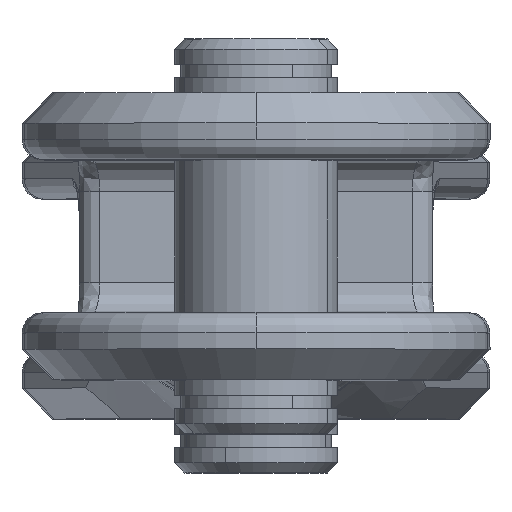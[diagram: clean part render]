
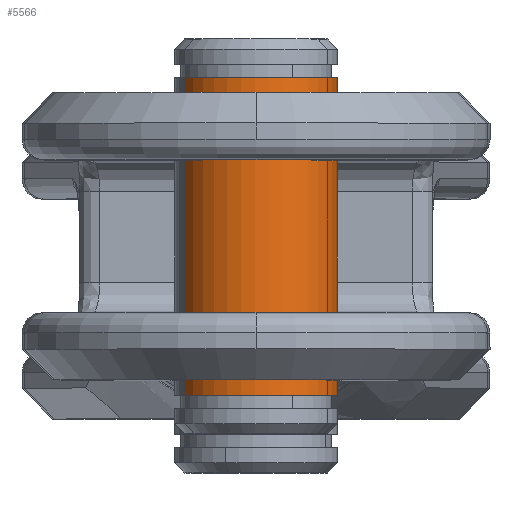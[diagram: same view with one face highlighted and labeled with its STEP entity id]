
A CAD part, top view. The second image highlights one B-rep face of the part: STEP entity #5566.
In plain terms, the highlighted cylindrical face has radius 8 mm (diameter 16 mm), a partial arc.
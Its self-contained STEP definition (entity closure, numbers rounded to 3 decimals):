
#172 = VERTEX_POINT ( 'NONE', #10167 ) ;
#356 = DIRECTION ( 'NONE',  ( -1., 0., 0. ) ) ;
#547 = VERTEX_POINT ( 'NONE', #9901 ) ;
#913 = CARTESIAN_POINT ( 'NONE',  ( 35., 0., 8. ) ) ;
#1134 = EDGE_CURVE ( 'NONE', #172, #547, #8443, .T. ) ;
#1349 = CARTESIAN_POINT ( 'NONE',  ( 35., 0., 0. ) ) ;
#1611 = DIRECTION ( 'NONE',  ( -1., 0., 0. ) ) ;
#1624 = VERTEX_POINT ( 'NONE', #913 ) ;
#1773 = CARTESIAN_POINT ( 'NONE',  ( 0., 0., 8. ) ) ;
#2135 = DIRECTION ( 'NONE',  ( 0., -1., 0. ) ) ;
#2444 = VECTOR ( 'NONE', #9659, 1000. ) ;
#2702 = LINE ( 'NONE', #1773, #2444 ) ;
#3343 = EDGE_LOOP ( 'NONE', ( #4225, #8306, #4910, #9893 ) ) ;
#3438 = AXIS2_PLACEMENT_3D ( 'NONE', #1349, #6914, #2135 ) ;
#3559 = DIRECTION ( 'NONE',  ( -1., 0., 0. ) ) ;
#3634 = CARTESIAN_POINT ( 'NONE',  ( 3.8, 0., 0. ) ) ;
#3769 = CYLINDRICAL_SURFACE ( 'NONE', #5494, 8. ) ;
#4021 = FACE_OUTER_BOUND ( 'NONE', #3343, .T. ) ;
#4225 = ORIENTED_EDGE ( 'NONE', *, *, #7275, .F. ) ;
#4781 = DIRECTION ( 'NONE',  ( 0., 0., 1. ) ) ;
#4842 = VECTOR ( 'NONE', #356, 1000. ) ;
#4910 = ORIENTED_EDGE ( 'NONE', *, *, #9395, .T. ) ;
#5109 = CARTESIAN_POINT ( 'NONE',  ( 0., 0., -8. ) ) ;
#5494 = AXIS2_PLACEMENT_3D ( 'NONE', #7944, #1611, #4781 ) ;
#5566 = ADVANCED_FACE ( 'NONE', ( #4021 ), #3769, .T. ) ;
#6163 = VERTEX_POINT ( 'NONE', #7970 ) ;
#6230 = AXIS2_PLACEMENT_3D ( 'NONE', #3634, #3559, #9223 ) ;
#6914 = DIRECTION ( 'NONE',  ( -1., 0., 0. ) ) ;
#7275 = EDGE_CURVE ( 'NONE', #6163, #172, #9061, .T. ) ;
#7305 = CIRCLE ( 'NONE', #3438, 8. ) ;
#7944 = CARTESIAN_POINT ( 'NONE',  ( 0., 0., 0. ) ) ;
#7970 = CARTESIAN_POINT ( 'NONE',  ( 35., 0., -8. ) ) ;
#8306 = ORIENTED_EDGE ( 'NONE', *, *, #9681, .T. ) ;
#8443 = CIRCLE ( 'NONE', #6230, 8. ) ;
#9061 = LINE ( 'NONE', #5109, #4842 ) ;
#9223 = DIRECTION ( 'NONE',  ( 0., -1., 0. ) ) ;
#9395 = EDGE_CURVE ( 'NONE', #1624, #547, #2702, .T. ) ;
#9659 = DIRECTION ( 'NONE',  ( -1., 0., 0. ) ) ;
#9681 = EDGE_CURVE ( 'NONE', #6163, #1624, #7305, .T. ) ;
#9893 = ORIENTED_EDGE ( 'NONE', *, *, #1134, .F. ) ;
#9901 = CARTESIAN_POINT ( 'NONE',  ( 3.8, 0., 8. ) ) ;
#10167 = CARTESIAN_POINT ( 'NONE',  ( 3.8, 0., -8. ) ) ;
